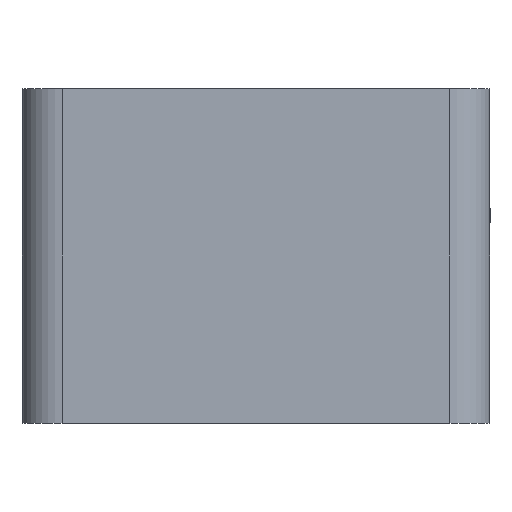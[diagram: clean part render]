
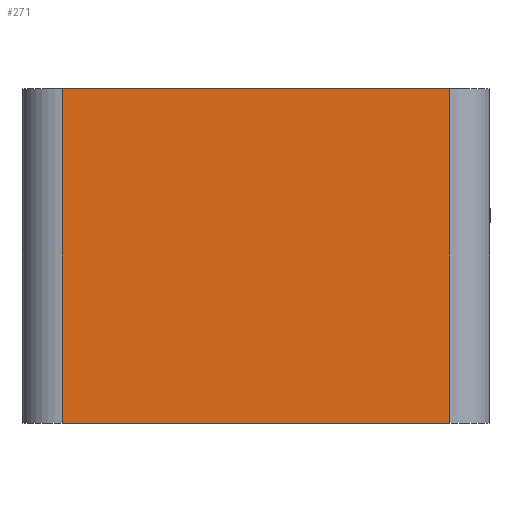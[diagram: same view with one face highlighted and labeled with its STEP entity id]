
A CAD part, front view. The second image highlights one B-rep face of the part: STEP entity #271.
In plain terms, the highlighted planar face has unit normal (0, -1, 0).
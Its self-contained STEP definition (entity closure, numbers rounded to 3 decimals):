
#99=FACE_OUTER_BOUND('',#1120,.T.);
#271=ADVANCED_FACE('',(#99),#465,.T.);
#465=PLANE('',#3409);
#606=LINE('',#4912,#784);
#616=LINE('',#4934,#794);
#617=LINE('',#4937,#795);
#618=LINE('',#4938,#796);
#784=VECTOR('',#3641,1.);
#794=VECTOR('',#3657,1.);
#795=VECTOR('',#3658,1.);
#796=VECTOR('',#3659,1.);
#1120=EDGE_LOOP('',(#1474,#1475,#1476,#1477));
#1474=ORIENTED_EDGE('',*,*,#2767,.T.);
#1475=ORIENTED_EDGE('',*,*,#2768,.T.);
#1476=ORIENTED_EDGE('',*,*,#2756,.T.);
#1477=ORIENTED_EDGE('',*,*,#2769,.T.);
#2430=VERTEX_POINT('',#4911);
#2431=VERTEX_POINT('',#4913);
#2440=VERTEX_POINT('',#4935);
#2441=VERTEX_POINT('',#4936);
#2756=EDGE_CURVE('',#2431,#2430,#606,.T.);
#2767=EDGE_CURVE('',#2440,#2441,#616,.T.);
#2768=EDGE_CURVE('',#2441,#2431,#617,.T.);
#2769=EDGE_CURVE('',#2430,#2440,#618,.T.);
#3409=AXIS2_PLACEMENT_3D('',#4939,#3660,#3661);
#3641=DIRECTION('',(-1.,0.,0.));
#3657=DIRECTION('',(1.,0.,0.));
#3658=DIRECTION('',(0.,0.,1.));
#3659=DIRECTION('',(0.,0.,-1.));
#3660=DIRECTION('',(0.,-1.,0.));
#3661=DIRECTION('',(0.,0.,-1.));
#4911=CARTESIAN_POINT('',(3.,0.,25.));
#4912=CARTESIAN_POINT('',(17.5,0.,25.));
#4913=CARTESIAN_POINT('',(32.,0.,25.));
#4934=CARTESIAN_POINT('',(17.5,0.,0.));
#4935=CARTESIAN_POINT('',(3.,0.,0.));
#4936=CARTESIAN_POINT('',(32.,0.,0.));
#4937=CARTESIAN_POINT('',(32.,0.,0.));
#4938=CARTESIAN_POINT('',(3.,0.,0.));
#4939=CARTESIAN_POINT('',(17.5,0.,0.));
